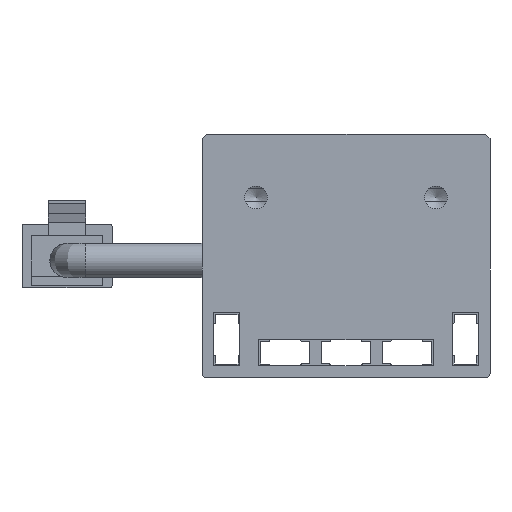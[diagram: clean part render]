
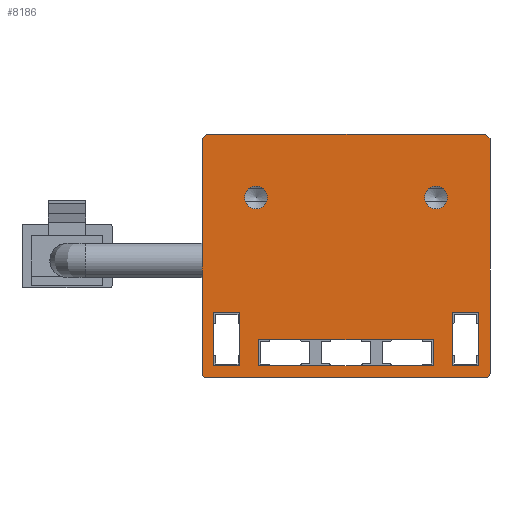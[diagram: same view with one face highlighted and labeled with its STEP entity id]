
A CAD part, front view. The second image highlights one B-rep face of the part: STEP entity #8186.
In plain terms, the highlighted planar face has unit normal (0, -1, 0).
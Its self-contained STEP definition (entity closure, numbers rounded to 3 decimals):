
#73=FACE_BOUND('',#1267,.T.);
#74=FACE_BOUND('',#1268,.T.);
#75=FACE_BOUND('',#1269,.T.);
#76=FACE_BOUND('',#1270,.T.);
#77=FACE_BOUND('',#1271,.T.);
#415=CIRCLE('',#8878,1.265);
#417=CIRCLE('',#8882,1.265);
#419=CIRCLE('',#8897,0.5);
#421=CIRCLE('',#8905,0.5);
#836=FACE_OUTER_BOUND('',#1266,.T.);
#1266=EDGE_LOOP('',(#7410,#7411,#7412,#7413,#7414,#7415,#7416,#7417));
#1267=EDGE_LOOP('',(#7418));
#1268=EDGE_LOOP('',(#7419));
#1269=EDGE_LOOP('',(#7420,#7421,#7422,#7423));
#1270=EDGE_LOOP('',(#7424,#7425,#7426,#7427));
#1271=EDGE_LOOP('',(#7428,#7429,#7430,#7431));
#2172=LINE('',#13450,#3109);
#2175=LINE('',#13456,#3112);
#2178=LINE('',#13462,#3115);
#2181=LINE('',#13466,#3118);
#2184=LINE('',#13474,#3121);
#2187=LINE('',#13480,#3124);
#2190=LINE('',#13486,#3127);
#2193=LINE('',#13490,#3130);
#2196=LINE('',#13498,#3133);
#2199=LINE('',#13504,#3136);
#2202=LINE('',#13510,#3139);
#2205=LINE('',#13514,#3142);
#2209=LINE('',#13528,#3146);
#2212=LINE('',#13534,#3149);
#2215=LINE('',#13540,#3152);
#2218=LINE('',#13546,#3155);
#2221=LINE('',#13552,#3158);
#2225=LINE('',#13562,#3162);
#3109=VECTOR('',#11065,10.);
#3112=VECTOR('',#11070,10.);
#3115=VECTOR('',#11075,10.);
#3118=VECTOR('',#11080,10.);
#3121=VECTOR('',#11085,10.);
#3124=VECTOR('',#11090,10.);
#3127=VECTOR('',#11095,10.);
#3130=VECTOR('',#11100,10.);
#3133=VECTOR('',#11105,10.);
#3136=VECTOR('',#11110,10.);
#3139=VECTOR('',#11115,10.);
#3142=VECTOR('',#11120,10.);
#3146=VECTOR('',#11132,10.);
#3149=VECTOR('',#11137,10.);
#3152=VECTOR('',#11142,10.);
#3155=VECTOR('',#11147,10.);
#3158=VECTOR('',#11152,10.);
#3162=VECTOR('',#11164,10.);
#3903=VERTEX_POINT('',#13431);
#3906=VERTEX_POINT('',#13440);
#3909=VERTEX_POINT('',#13447);
#3910=VERTEX_POINT('',#13449);
#3912=VERTEX_POINT('',#13455);
#3914=VERTEX_POINT('',#13461);
#3917=VERTEX_POINT('',#13471);
#3918=VERTEX_POINT('',#13473);
#3920=VERTEX_POINT('',#13479);
#3922=VERTEX_POINT('',#13485);
#3925=VERTEX_POINT('',#13495);
#3926=VERTEX_POINT('',#13497);
#3928=VERTEX_POINT('',#13503);
#3930=VERTEX_POINT('',#13509);
#3933=VERTEX_POINT('',#13519);
#3934=VERTEX_POINT('',#13521);
#3936=VERTEX_POINT('',#13527);
#3938=VERTEX_POINT('',#13533);
#3940=VERTEX_POINT('',#13539);
#3942=VERTEX_POINT('',#13545);
#3944=VERTEX_POINT('',#13551);
#3946=VERTEX_POINT('',#13557);
#5056=EDGE_CURVE('',#3903,#3903,#415,.T.);
#5060=EDGE_CURVE('',#3906,#3906,#417,.T.);
#5064=EDGE_CURVE('',#3910,#3909,#2172,.T.);
#5067=EDGE_CURVE('',#3912,#3910,#2175,.T.);
#5070=EDGE_CURVE('',#3914,#3912,#2178,.T.);
#5073=EDGE_CURVE('',#3909,#3914,#2181,.T.);
#5076=EDGE_CURVE('',#3918,#3917,#2184,.T.);
#5079=EDGE_CURVE('',#3920,#3918,#2187,.T.);
#5082=EDGE_CURVE('',#3922,#3920,#2190,.T.);
#5085=EDGE_CURVE('',#3917,#3922,#2193,.T.);
#5088=EDGE_CURVE('',#3926,#3925,#2196,.T.);
#5091=EDGE_CURVE('',#3928,#3926,#2199,.T.);
#5094=EDGE_CURVE('',#3930,#3928,#2202,.T.);
#5097=EDGE_CURVE('',#3925,#3930,#2205,.T.);
#5100=EDGE_CURVE('',#3934,#3933,#419,.T.);
#5103=EDGE_CURVE('',#3936,#3934,#2209,.T.);
#5106=EDGE_CURVE('',#3938,#3936,#2212,.T.);
#5109=EDGE_CURVE('',#3940,#3938,#2215,.T.);
#5112=EDGE_CURVE('',#3942,#3940,#2218,.T.);
#5115=EDGE_CURVE('',#3944,#3942,#2221,.T.);
#5118=EDGE_CURVE('',#3946,#3944,#421,.T.);
#5121=EDGE_CURVE('',#3933,#3946,#2225,.T.);
#7410=ORIENTED_EDGE('',*,*,#5121,.T.);
#7411=ORIENTED_EDGE('',*,*,#5118,.T.);
#7412=ORIENTED_EDGE('',*,*,#5115,.T.);
#7413=ORIENTED_EDGE('',*,*,#5112,.T.);
#7414=ORIENTED_EDGE('',*,*,#5109,.T.);
#7415=ORIENTED_EDGE('',*,*,#5106,.T.);
#7416=ORIENTED_EDGE('',*,*,#5103,.T.);
#7417=ORIENTED_EDGE('',*,*,#5100,.T.);
#7418=ORIENTED_EDGE('',*,*,#5056,.T.);
#7419=ORIENTED_EDGE('',*,*,#5060,.T.);
#7420=ORIENTED_EDGE('',*,*,#5097,.T.);
#7421=ORIENTED_EDGE('',*,*,#5094,.T.);
#7422=ORIENTED_EDGE('',*,*,#5091,.T.);
#7423=ORIENTED_EDGE('',*,*,#5088,.T.);
#7424=ORIENTED_EDGE('',*,*,#5085,.T.);
#7425=ORIENTED_EDGE('',*,*,#5082,.T.);
#7426=ORIENTED_EDGE('',*,*,#5079,.T.);
#7427=ORIENTED_EDGE('',*,*,#5076,.T.);
#7428=ORIENTED_EDGE('',*,*,#5073,.T.);
#7429=ORIENTED_EDGE('',*,*,#5070,.T.);
#7430=ORIENTED_EDGE('',*,*,#5067,.T.);
#7431=ORIENTED_EDGE('',*,*,#5064,.T.);
#7770=PLANE('',#8907);
#8186=ADVANCED_FACE('',(#836,#73,#74,#75,#76,#77),#7770,.T.);
#8878=AXIS2_PLACEMENT_3D('',#13432,#11048,#11049);
#8882=AXIS2_PLACEMENT_3D('',#13441,#11058,#11059);
#8897=AXIS2_PLACEMENT_3D('',#13522,#11126,#11127);
#8905=AXIS2_PLACEMENT_3D('',#13558,#11158,#11159);
#8907=AXIS2_PLACEMENT_3D('',#13563,#11165,#11166);
#11048=DIRECTION('center_axis',(0.,1.,0.));
#11049=DIRECTION('ref_axis',(0.,0.,-1.));
#11058=DIRECTION('center_axis',(0.,1.,0.));
#11059=DIRECTION('ref_axis',(0.,0.,-1.));
#11065=DIRECTION('',(0.,0.,-1.));
#11070=DIRECTION('',(1.,0.,0.));
#11075=DIRECTION('',(0.,0.,1.));
#11080=DIRECTION('',(-1.,0.,0.));
#11085=DIRECTION('',(0.,0.,-1.));
#11090=DIRECTION('',(1.,0.,0.));
#11095=DIRECTION('',(0.,0.,1.));
#11100=DIRECTION('',(-1.,0.,0.));
#11105=DIRECTION('',(0.,0.,-1.));
#11110=DIRECTION('',(1.,0.,0.));
#11115=DIRECTION('',(0.,0.,1.));
#11120=DIRECTION('',(-1.,0.,0.));
#11126=DIRECTION('center_axis',(0.,-1.,0.));
#11127=DIRECTION('ref_axis',(-1.,0.,0.));
#11132=DIRECTION('',(0.,0.,-1.));
#11137=DIRECTION('',(-0.707,0.,-0.707));
#11142=DIRECTION('',(-1.,0.,0.));
#11147=DIRECTION('',(-0.707,0.,0.707));
#11152=DIRECTION('',(0.,0.,1.));
#11158=DIRECTION('center_axis',(0.,-1.,0.));
#11159=DIRECTION('ref_axis',(0.,0.,-1.));
#11164=DIRECTION('',(1.,0.,0.));
#11165=DIRECTION('center_axis',(0.,-1.,0.));
#11166=DIRECTION('ref_axis',(1.,0.,0.));
#13431=CARTESIAN_POINT('',(-10.,-127.5,21.265));
#13432=CARTESIAN_POINT('Origin',(-10.,-127.5,20.));
#13440=CARTESIAN_POINT('',(10.,-127.5,21.265));
#13441=CARTESIAN_POINT('Origin',(10.,-127.5,20.));
#13447=CARTESIAN_POINT('',(9.7,-127.5,1.3));
#13449=CARTESIAN_POINT('',(9.7,-127.5,4.2));
#13450=CARTESIAN_POINT('',(9.7,-127.5,4.2));
#13455=CARTESIAN_POINT('',(-9.7,-127.5,4.2));
#13456=CARTESIAN_POINT('',(-9.7,-127.5,4.2));
#13461=CARTESIAN_POINT('',(-9.7,-127.5,1.3));
#13462=CARTESIAN_POINT('',(-9.7,-127.5,1.3));
#13466=CARTESIAN_POINT('',(9.7,-127.5,1.3));
#13471=CARTESIAN_POINT('',(-11.8,-127.5,1.3));
#13473=CARTESIAN_POINT('',(-11.8,-127.5,7.2));
#13474=CARTESIAN_POINT('',(-11.8,-127.5,7.2));
#13479=CARTESIAN_POINT('',(-14.7,-127.5,7.2));
#13480=CARTESIAN_POINT('',(-14.7,-127.5,7.2));
#13485=CARTESIAN_POINT('',(-14.7,-127.5,1.3));
#13486=CARTESIAN_POINT('',(-14.7,-127.5,1.3));
#13490=CARTESIAN_POINT('',(-11.8,-127.5,1.3));
#13495=CARTESIAN_POINT('',(14.7,-127.5,1.3));
#13497=CARTESIAN_POINT('',(14.7,-127.5,7.2));
#13498=CARTESIAN_POINT('',(14.7,-127.5,7.2));
#13503=CARTESIAN_POINT('',(11.8,-127.5,7.2));
#13504=CARTESIAN_POINT('',(11.8,-127.5,7.2));
#13509=CARTESIAN_POINT('',(11.8,-127.5,1.3));
#13510=CARTESIAN_POINT('',(11.8,-127.5,1.3));
#13514=CARTESIAN_POINT('',(14.7,-127.5,1.3));
#13519=CARTESIAN_POINT('',(-15.5,-127.5,0.));
#13521=CARTESIAN_POINT('',(-16.,-127.5,0.5));
#13522=CARTESIAN_POINT('Origin',(-15.5,-127.5,0.5));
#13527=CARTESIAN_POINT('',(-16.,-127.5,26.5));
#13528=CARTESIAN_POINT('',(-16.,-127.5,0.5));
#13533=CARTESIAN_POINT('',(-15.5,-127.5,27.));
#13534=CARTESIAN_POINT('',(-16.,-127.5,26.5));
#13539=CARTESIAN_POINT('',(15.5,-127.5,27.));
#13540=CARTESIAN_POINT('',(-15.5,-127.5,27.));
#13545=CARTESIAN_POINT('',(16.,-127.5,26.5));
#13546=CARTESIAN_POINT('',(15.5,-127.5,27.));
#13551=CARTESIAN_POINT('',(16.,-127.5,0.5));
#13552=CARTESIAN_POINT('',(16.,-127.5,26.5));
#13557=CARTESIAN_POINT('',(15.5,-127.5,0.));
#13558=CARTESIAN_POINT('Origin',(15.5,-127.5,0.5));
#13562=CARTESIAN_POINT('',(15.5,-127.5,0.));
#13563=CARTESIAN_POINT('Origin',(0.,-127.5,13.5));
